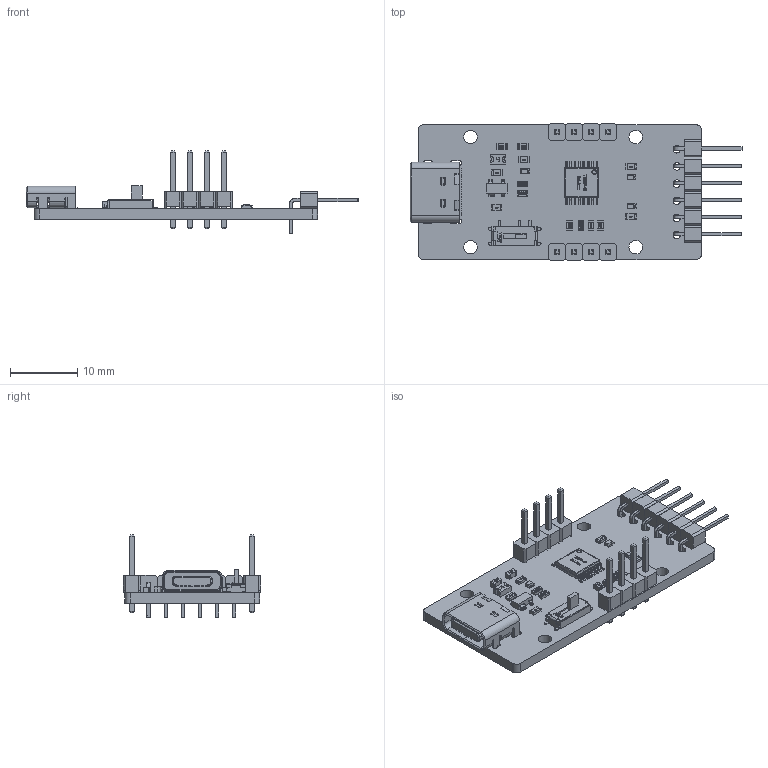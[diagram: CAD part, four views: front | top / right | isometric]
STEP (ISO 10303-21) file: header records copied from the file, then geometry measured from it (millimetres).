
FILE_DESCRIPTION(/* description */ (''),/* implementation_level */ '2;1');
FILE_NAME(/* name */ 'SG-C2303-01C-V1.1_step.prt.stp',/* time_stamp */ '2025-08-19T11:43:03+08:00',/* author */ (''),/* organization */ (''),/* preprocessor_version */ 'ST-DEVELOPER v16.7',/* originating_system */ 'SIEMENS PLM Software NX 12.0',/* authorisation */ '');
FILE_SCHEMA (('AUTOMOTIVE_DESIGN { 1 0 10303 214 3 1 1 1 }'));
Products named in the file (59): User_Library-LED_0603_R_Pad; User_Library-LED_0603_R_Pocket001; User_Library-LED_0603_R_Fillet; User_Library-LED_0603_R_Pad004; User_Library-LED_0603_R_Pocket002; Open CASCADE STEP translator 6.8 4.15.1.11; Open CASCADE STEP translator 6.8 4.15.1.10; Open CASCADE STEP translator 6.8 4.15.1.9; Open CASCADE STEP translator 6.8 4.15.1.8; Open CASCADE STEP translator 6.8 4.15.1.7; Open CASCADE STEP translator 6.8 4.15.1.6; Open CASCADE STEP translator 6.8 4.15.1.5; Open CASCADE STEP translator 6.8 4.15.1.4; Open CASCADE STEP translator 6.8 4.15.1.3; Open CASCADE STEP translator 6.8 4.15.1.2; Open CASCADE STEP translator 6.8 4.15.1.1; Open CASCADE STEP translator 6.8 4.11.1.2; Open CASCADE STEP translator 6.8 4.11.1.1; LOGO_23675; R_060318211; C_060312553; LOGO_; TSSOP-16,_5x4_4mm; SOT_143; F0805; 2_54PIN_single; User_Library-R0603-2; Open CASCADE STEP translator 6.8 4.1.1; paizhen3; U1; C_0603; C1; C2; C4; D1; User_Library-LED_0603_R; D2; D3; D4; F1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
Assembly tree (77 placements, depth 4):
  SG-C2303-01C-V1.1_step
    Board
      Open CASCADE STEP translator 6.8 4.1.1
    R8
      User_Library-R0603-2
    P8
      2_54PIN_single  x4
    P7
      2_54PIN_single  x4
    C5
      C_0603
        LOGO_
        C_060312553
    R7
      User_Library-R0603-2
    R6
      User_Library-R0603-2
    R2
      R_0603
        R_060318211
        LOGO_23675
    R1
      R_0603
        R_060318211
        LOGO_23675
    C3
      C_0603
        LOGO_
        C_060312553
    SW1
      ss-3292s-l2-b
        Open CASCADE STEP translator 6.8 4.11.1.1
        Open CASCADE STEP translator 6.8 4.11.1.2
    R5
      R_0603
        R_060318211
        LOGO_23675
    R4
      R_0603
        R_060318211
        LOGO_23675
    R3
      R_0603
        R_060318211
        LOGO_23675
    J1
      TYPE-C-16P
        Open CASCADE STEP translator 6.8 4.15.1.1
        Open CASCADE STEP translator 6.8 4.15.1.2
        Open CASCADE STEP translator 6.8 4.15.1.3
        Open CASCADE STEP translator 6.8 4.15.1.4
        Open CASCADE STEP translator 6.8 4.15.1.5
        Open CASCADE STEP translator 6.8 4.15.1.6
        Open CASCADE STEP translator 6.8 4.15.1.7
        Open CASCADE STEP translator 6.8 4.15.1.8
        Open CASCADE STEP translator 6.8 4.15.1.9
        Open CASCADE STEP translator 6.8 4.15.1.10
        Open CASCADE STEP translator 6.8 4.15.1.11
    F1
      F0805
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Bounding box: 49.21 x 20.32 x 12.17 mm (x, y, z)
Volume: 1741.4 mm3; surface area: 3729.9 mm2
Topology: 248 solids, 248 shells, 4306 faces, 10326 edges, 6537 vertices
Faces by surface type: plane 2326, bspline 879, cylinder 815, torus 158, sphere 120, cone 8
Full cylindrical faces by diameter (mm): 0.7 x2, 1 x8, 1.1 x8, 2 x4
Entity records: 92663 total; most frequent: CARTESIAN_POINT 31128, ORIENTED_EDGE 10676, DIRECTION 10343, EDGE_CURVE 5338, AXIS2_PLACEMENT_3D 3487, LINE 3369, VECTOR 3369, VERTEX_POINT 3359
